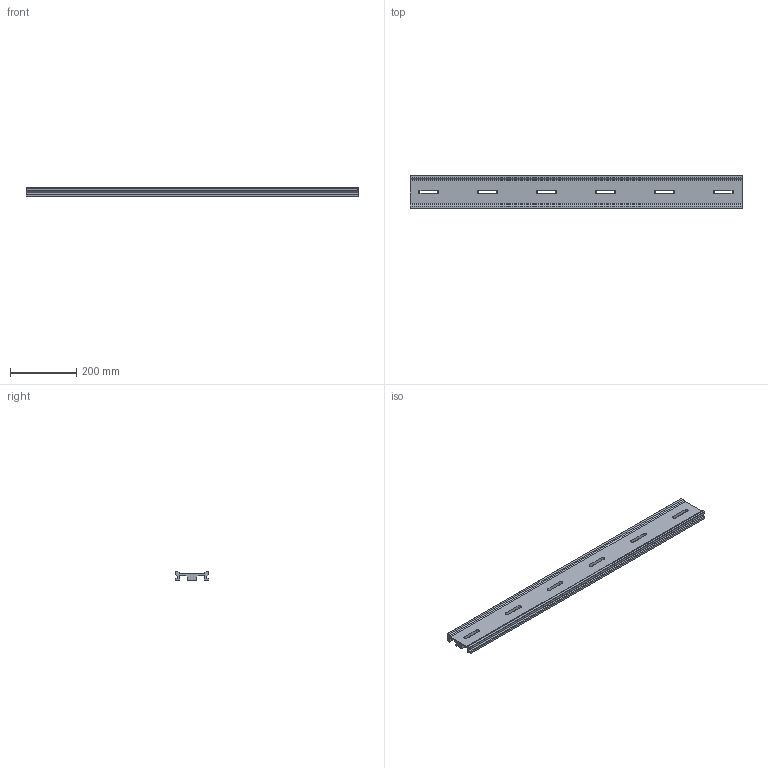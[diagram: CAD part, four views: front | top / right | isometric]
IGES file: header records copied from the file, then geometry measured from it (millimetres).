
Global section: file name: No Iges File Name specified; native system: AutoDesk Inventor R12.0; preprocessor: AutoDesk Inventor Iges Exporter R12.0; author: No Author specified; organization: No Organization specified; date: 20090803.095944; units: millimetre
Bounding box: 1000 x 100 x 25 mm (x, y, z)
Volume: 1225188 mm3; surface area: 335185.6 mm2
Topology: 1 solids, 1 shells, 96 faces, 264 edges, 176 vertices
Faces by surface type: plane 64, revolution 30, cylinder 2
